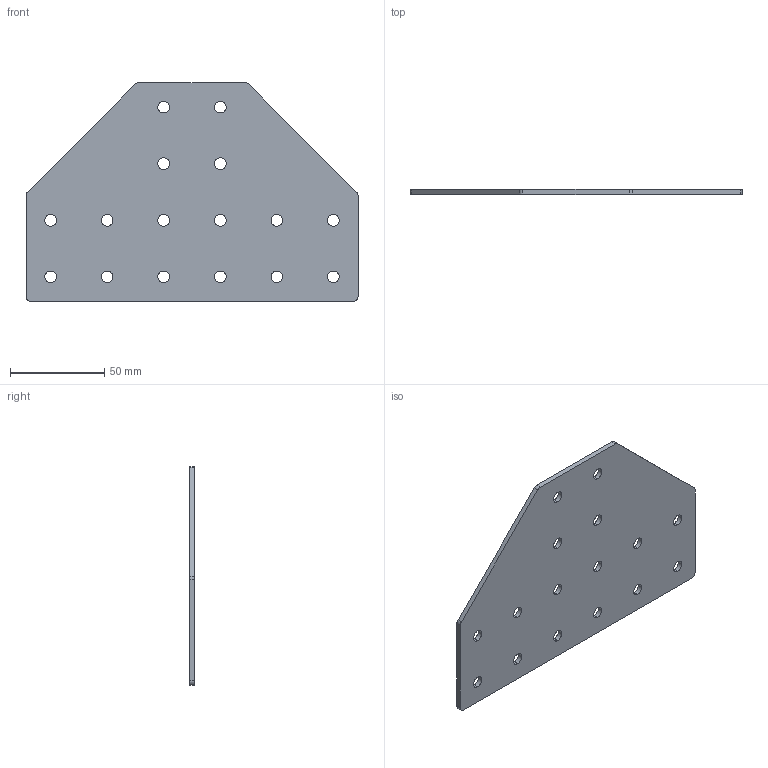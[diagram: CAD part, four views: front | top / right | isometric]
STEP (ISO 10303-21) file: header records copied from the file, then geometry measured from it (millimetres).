
FILE_DESCRIPTION (( 'STEP AP203' ), '1' );
FILE_NAME ('ﾒ-16-ﾓ-30.STEP', '2016-07-22T11:34:46', ( '' ), ( '' ), 'SwSTEP 2.0', 'SolidWorks 2014', '' );
FILE_SCHEMA (( 'CONFIG_CONTROL_DESIGN' ));
Length unit declared in the file: millimetre
Products named in the file (1): ﾒ-16-ﾓ-30
Bounding box: 176 x 2.5 x 116 mm (x, y, z)
Surface area: 34998.3 mm2 (no closed solid volume)
Topology: 0 solids, 1 shells, 46 faces, 132 edges, 88 vertices
Faces by surface type: cylinder 38, plane 8
Entity records: 1693 total; most frequent: DIRECTION 302, CARTESIAN_POINT 267, ORIENTED_EDGE 264, EDGE_CURVE 132, AXIS2_PLACEMENT_3D 123, VERTEX_POINT 88, EDGE_LOOP 78, CIRCLE 76
